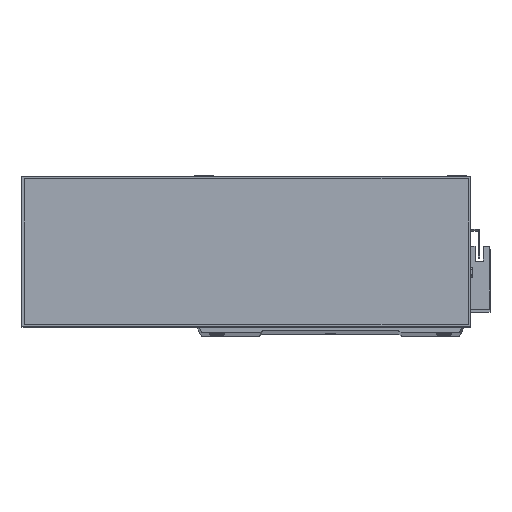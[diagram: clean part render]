
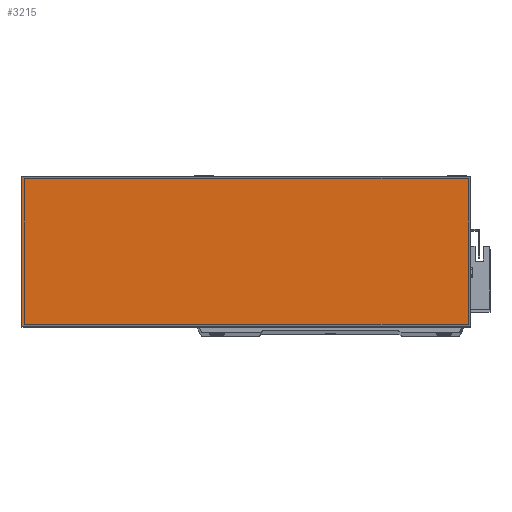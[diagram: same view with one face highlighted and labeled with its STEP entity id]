
A CAD part, top view. The second image highlights one B-rep face of the part: STEP entity #3215.
In plain terms, the highlighted planar face has unit normal (0, 0, 1).
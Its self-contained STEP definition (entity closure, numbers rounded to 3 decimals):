
#1054 = VERTEX_POINT ( 'NONE', #29552 ) ;
#1237 = ORIENTED_EDGE ( 'NONE', *, *, #11815, .T. ) ;
#1517 = EDGE_CURVE ( 'NONE', #1054, #23032, #10176, .T. ) ;
#1654 = VERTEX_POINT ( 'NONE', #18818 ) ;
#2032 = VECTOR ( 'NONE', #29027, 1000. ) ;
#2904 = CARTESIAN_POINT ( 'NONE',  ( 0., 0., 50. ) ) ;
#3215 = ADVANCED_FACE ( 'NONE', ( #23691 ), #27269, .F. ) ;
#4772 = VECTOR ( 'NONE', #17375, 1000. ) ;
#4972 = LINE ( 'NONE', #2904, #28654 ) ;
#6325 = EDGE_CURVE ( 'NONE', #1654, #15742, #4972, .T. ) ;
#6736 = DIRECTION ( 'NONE',  ( 0., 0., -1. ) ) ;
#7387 = DIRECTION ( 'NONE',  ( 0., 1., 0. ) ) ;
#9531 = EDGE_CURVE ( 'NONE', #15742, #1054, #28441, .T. ) ;
#10176 = LINE ( 'NONE', #20713, #4772 ) ;
#11747 = CARTESIAN_POINT ( 'NONE',  ( 0., 93., 50. ) ) ;
#11815 = EDGE_CURVE ( 'NONE', #23032, #1654, #18915, .T. ) ;
#13011 = CARTESIAN_POINT ( 'NONE',  ( 0., 0., 50. ) ) ;
#14185 = CARTESIAN_POINT ( 'NONE',  ( 277., 0., 50. ) ) ;
#15742 = VERTEX_POINT ( 'NONE', #20026 ) ;
#15995 = ORIENTED_EDGE ( 'NONE', *, *, #1517, .T. ) ;
#17375 = DIRECTION ( 'NONE',  ( -1., 0., 0. ) ) ;
#17638 = AXIS2_PLACEMENT_3D ( 'NONE', #18151, #6736, #22756 ) ;
#18151 = CARTESIAN_POINT ( 'NONE',  ( 0., 0., 50. ) ) ;
#18462 = ORIENTED_EDGE ( 'NONE', *, *, #9531, .T. ) ;
#18818 = CARTESIAN_POINT ( 'NONE',  ( 0., 0., 50. ) ) ;
#18915 = LINE ( 'NONE', #13011, #2032 ) ;
#18962 = DIRECTION ( 'NONE',  ( 1., 0., 0. ) ) ;
#20026 = CARTESIAN_POINT ( 'NONE',  ( 277., 0., 50. ) ) ;
#20713 = CARTESIAN_POINT ( 'NONE',  ( 0., 93., 50. ) ) ;
#22756 = DIRECTION ( 'NONE',  ( -1., 0., 0. ) ) ;
#23032 = VERTEX_POINT ( 'NONE', #11747 ) ;
#23129 = ORIENTED_EDGE ( 'NONE', *, *, #6325, .T. ) ;
#23691 = FACE_OUTER_BOUND ( 'NONE', #26174, .T. ) ;
#26174 = EDGE_LOOP ( 'NONE', ( #1237, #23129, #18462, #15995 ) ) ;
#27269 = PLANE ( 'NONE',  #17638 ) ;
#28441 = LINE ( 'NONE', #14185, #29193 ) ;
#28654 = VECTOR ( 'NONE', #18962, 1000. ) ;
#29027 = DIRECTION ( 'NONE',  ( 0., -1., 0. ) ) ;
#29193 = VECTOR ( 'NONE', #7387, 1000. ) ;
#29552 = CARTESIAN_POINT ( 'NONE',  ( 277., 93., 50. ) ) ;
